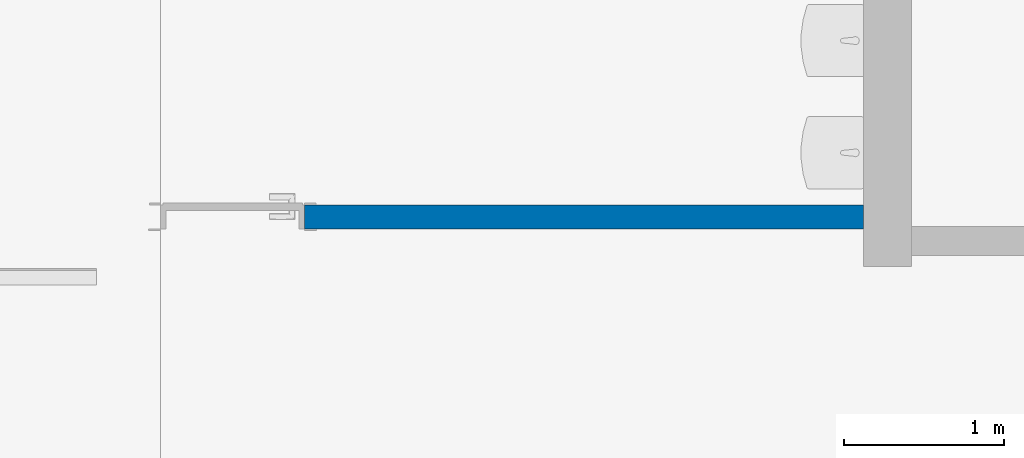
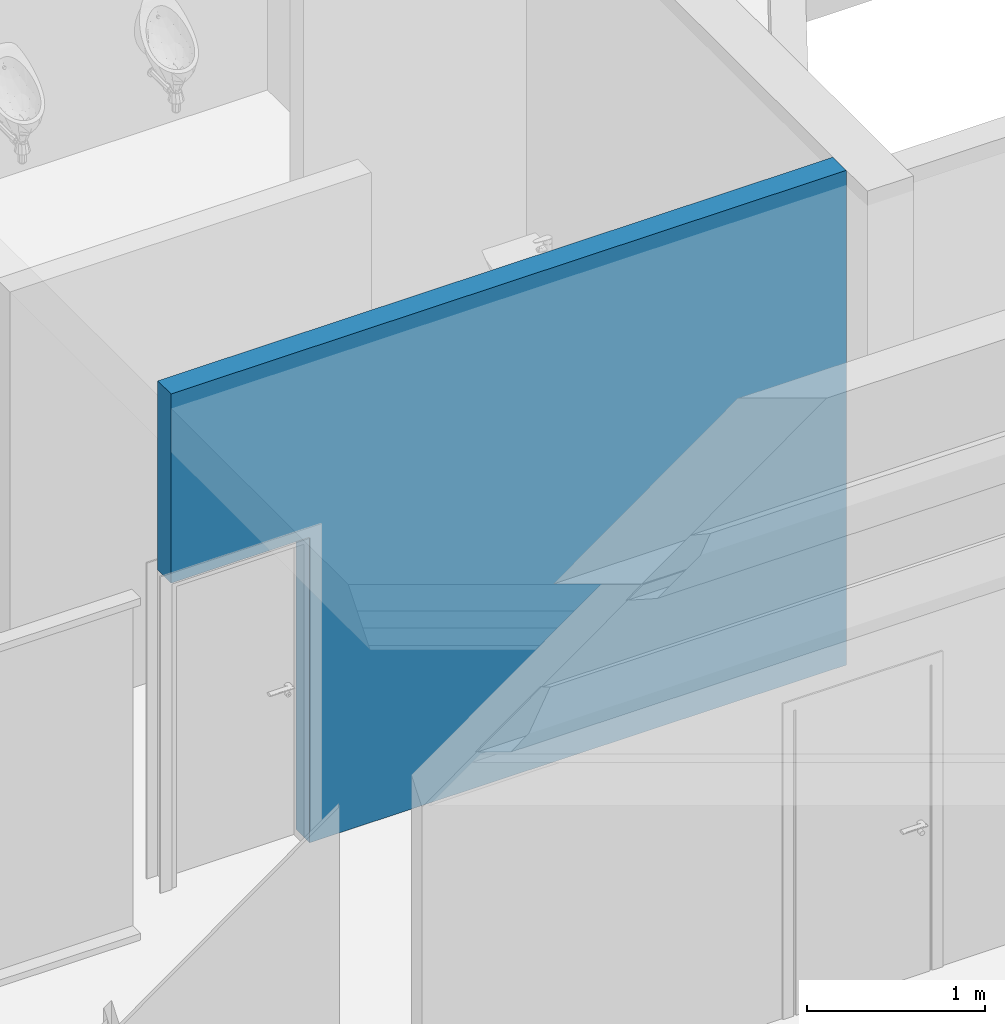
# One storey, part 75 of 117: 1 wall, 1 opening.
"""IFC4 building model written with IfcOpenShell, lengths in metres."""

from ifc_helpers import new_model, entity, si_unit, converted_unit, derived_unit, direction, frame, origin, place, context, subcontext, project, spatial, indexed_curve, outline, extrude, polygons, material, type_object, element, save


model = new_model("IFC4")

# Units and contexts
model_context = context("Model", 3, precision=1e-05, world=origin(), true_north=direction((6.123031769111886e-17, 1.0)))
body_context = subcontext(model_context, "Body", "Model", "MODEL_VIEW")
ifc_project = project(units=[si_unit("LENGTHUNIT", "METRE"), si_unit("AREAUNIT", "SQUARE_METRE"), si_unit("VOLUMEUNIT", "CUBIC_METRE"), converted_unit("PLANEANGLEUNIT", "DEGREE", entity("IfcRatioMeasure", 0.017453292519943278), si_unit("PLANEANGLEUNIT", "RADIAN"), dimensions=[0, 0, 0, 0, 0, 0, 0]), si_unit("MASSUNIT", "GRAM", prefix="KILO"), derived_unit("MASSDENSITYUNIT", [(si_unit("MASSUNIT", "GRAM", prefix="KILO"), 1), (si_unit("LENGTHUNIT", "METRE"), -3)]), derived_unit("MOMENTOFINERTIAUNIT", [(si_unit("LENGTHUNIT", "METRE"), 4)]), si_unit("TIMEUNIT", "SECOND"), si_unit("FREQUENCYUNIT", "HERTZ"), si_unit("THERMODYNAMICTEMPERATUREUNIT", "DEGREE_CELSIUS"), derived_unit("THERMALTRANSMITTANCEUNIT", [(si_unit("MASSUNIT", "GRAM", prefix="KILO"), 1), (si_unit("THERMODYNAMICTEMPERATUREUNIT", "KELVIN"), -1), (si_unit("TIMEUNIT", "SECOND"), -3)]), derived_unit("VOLUMETRICFLOWRATEUNIT", [(si_unit("LENGTHUNIT", "METRE"), 3), (si_unit("TIMEUNIT", "SECOND"), -1)]), derived_unit("MASSFLOWRATEUNIT", [(si_unit("MASSUNIT", "GRAM", prefix="KILO"), 1), (si_unit("TIMEUNIT", "SECOND"), -1)]), derived_unit("ROTATIONALFREQUENCYUNIT", [(si_unit("TIMEUNIT", "SECOND"), -1)]), si_unit("ELECTRICCURRENTUNIT", "AMPERE"), si_unit("ELECTRICVOLTAGEUNIT", "VOLT"), si_unit("POWERUNIT", "WATT"), si_unit("FORCEUNIT", "NEWTON", prefix="KILO"), si_unit("ILLUMINANCEUNIT", "LUX"), si_unit("LUMINOUSFLUXUNIT", "LUMEN"), si_unit("LUMINOUSINTENSITYUNIT", "CANDELA"), derived_unit("USERDEFINED", [(si_unit("MASSUNIT", "GRAM", prefix="KILO"), -1), (si_unit("LENGTHUNIT", "METRE"), -2), (si_unit("TIMEUNIT", "SECOND"), 3), (si_unit("LUMINOUSFLUXUNIT", "LUMEN"), 1)]), derived_unit("SOUNDPOWERUNIT", [(si_unit("MASSUNIT", "GRAM", prefix="KILO"), 1), (si_unit("LENGTHUNIT", "METRE"), 2), (si_unit("TIMEUNIT", "SECOND"), -3)]), derived_unit("SOUNDPRESSUREUNIT", [(si_unit("MASSUNIT", "GRAM", prefix="KILO"), 1), (si_unit("LENGTHUNIT", "METRE"), -1), (si_unit("TIMEUNIT", "SECOND"), -2)]), derived_unit("LINEARVELOCITYUNIT", [(si_unit("LENGTHUNIT", "METRE"), 1), (si_unit("TIMEUNIT", "SECOND"), -1)]), si_unit("PRESSUREUNIT", "PASCAL"), derived_unit("USERDEFINED", [(si_unit("LENGTHUNIT", "METRE"), -2), (si_unit("MASSUNIT", "GRAM", prefix="KILO"), 1), (si_unit("TIMEUNIT", "SECOND"), -2)]), derived_unit("LINEARFORCEUNIT", [(si_unit("MASSUNIT", "GRAM", prefix="KILO"), 1), (si_unit("LENGTHUNIT", "METRE"), 1), (si_unit("TIMEUNIT", "SECOND"), -2), (si_unit("LENGTHUNIT", "METRE"), -1)]), derived_unit("PLANARFORCEUNIT", [(si_unit("MASSUNIT", "GRAM", prefix="KILO"), 1), (si_unit("LENGTHUNIT", "METRE"), 1), (si_unit("TIMEUNIT", "SECOND"), -2), (si_unit("LENGTHUNIT", "METRE"), -2)])], contexts=[model_context])

# Site, building, storey
site_placement = place(None, origin())
site = spatial("IfcSite", under=ifc_project, at=site_placement, Name="Superficie", CompositionType="ELEMENT")
building_placement = place(site_placement, origin())
building = spatial("IfcBuilding", under=site, at=building_placement, CompositionType="ELEMENT")
storey_placement = place(building_placement, origin())
storey = spatial("IfcBuildingStorey", under=building, at=storey_placement, Name="Nivel 0", CompositionType="ELEMENT", Elevation=0.0)

# Wall, opening
ifc_material = material(Name="Muro por defecto", Category="Varios")
wall_type = type_object("IfcWallType", Name="Muro básico:Por defecto - 15 cm 2", PredefinedType="STANDARD")
wall_placement = place(storey_placement, frame((20.986799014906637, 6.141739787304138, 0.0)))
wall = element("IfcWall", 1, at=wall_placement, inside=storey, type_object=wall_type, material=ifc_material, Name="Muro básico:Por defecto - 15 cm 2", ObjectType="Muro básico:Por defecto - 15 cm 2", PredefinedType="NOTDEFINED", context=body_context, shape_type="Tessellation", body=[
    polygons([(4.3900000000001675, -0.07499999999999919, 3.4), (6.590267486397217e-16, -0.07499999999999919, 3.4), (6.590267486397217e-16, -0.07499999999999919, 2.099999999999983), (0.8999999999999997, -0.07499999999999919, 2.099999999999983), (0.8999999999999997, -0.07499999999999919, 0.0), (4.3900000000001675, -0.07499999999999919, 0.0), (1.3984387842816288e-16, 0.07500000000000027, 3.4), (4.3900000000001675, 0.07500000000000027, 3.4), (4.3900000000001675, 0.07500000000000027, 0.0), (0.8999999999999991, 0.07500000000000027, 0.0), (0.8999999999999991, 0.07500000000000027, 2.099999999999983), (1.3984387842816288e-16, 0.07500000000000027, 2.099999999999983)], [[[1, 2, 3, 4, 5, 6]], [[7, 8, 9, 10, 11, 12]], [[9, 6, 5, 10]], [[2, 1, 8, 7]], [[11, 4, 3, 12]], [[4, 11, 10, 5]], [[2, 7, 12, 3]], [[1, 6, 9, 8]]], closed=True),
])
opening_placement = place(wall_placement, frame((0.0, -0.07500000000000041, 0.0)))
element("IfcOpeningElement", 2, at=opening_placement, cuts=wall, Name="Puerta de 1 hoja:90 x 210 cm:1", PredefinedType="OPENING", context=body_context, shape_type="SweptSolid", body=[
    extrude(outline(indexed_curve([(0.0, -6.417877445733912e-33), (2.099999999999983, -6.417877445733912e-33), (2.099999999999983, 0.8999999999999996), (0.0, 0.8999999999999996), (0.0, -6.417877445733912e-33)], self_intersect=False)), frame((0.0, 0.0, 0.0), z_axis=(0.0, 1.0, 0.0), x_axis=(0.0, 0.0, 1.0)), (0.0, 0.0, 1.0), 0.14999999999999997),
])

save(model, "model.ifc")
